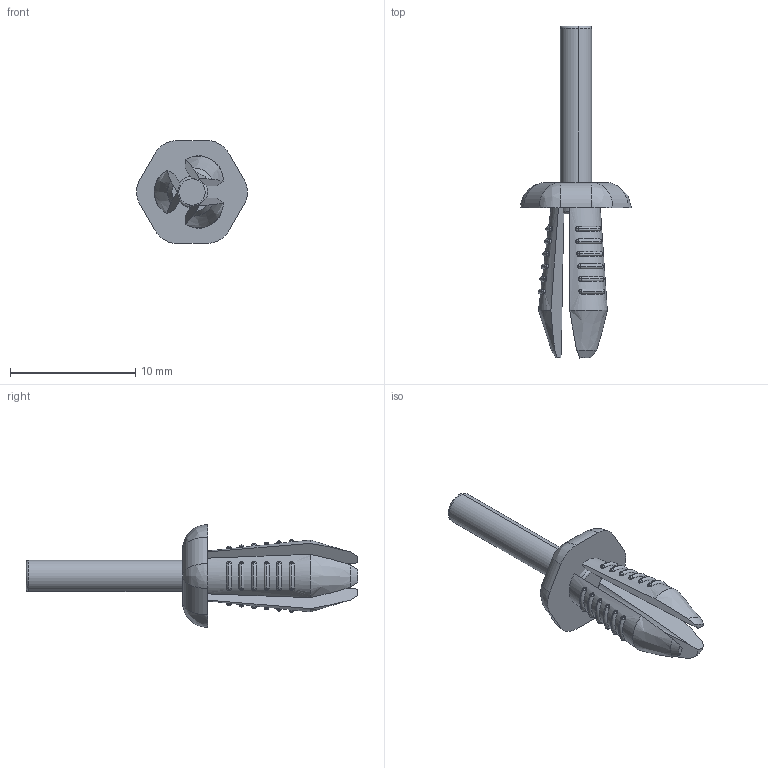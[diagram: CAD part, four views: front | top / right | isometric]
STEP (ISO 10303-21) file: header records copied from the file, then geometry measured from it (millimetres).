
FILE_DESCRIPTION(('Open CASCADE Model'),'2;1');
FILE_NAME('Open CASCADE Shape Model','2026-02-10T10:58:43',('Author'),( 'Open CASCADE'),'Open CASCADE STEP processor 7.8','Open CASCADE 7.8' ,'Unknown');
FILE_SCHEMA(('AUTOMOTIVE_DESIGN { 1 0 10303 214 1 1 1 1 }'));
Length unit declared in the file: millimetre
Products named in the file (3): Compound1; Solid1; Solid2
Assembly tree (2 placements, depth 2):
  Compound1
    Solid1
    Solid2
Bounding box: 8.85 x 26.5 x 8.2 mm (x, y, z)
Volume: 257.9 mm3; surface area: 526 mm2
Topology: 2 solids, 2 shells, 276 faces, 667 edges, 374 vertices
Faces by surface type: sphere 108, cylinder 82, bspline 51, plane 31, torus 4
Entity records: 9646 total; most frequent: CARTESIAN_POINT 3843, ORIENTED_EDGE 1256, DIRECTION 1157, EDGE_CURVE 628, AXIS2_PLACEMENT_3D 527, VERTEX_POINT 374, CIRCLE 299, FACE_BOUND 296
